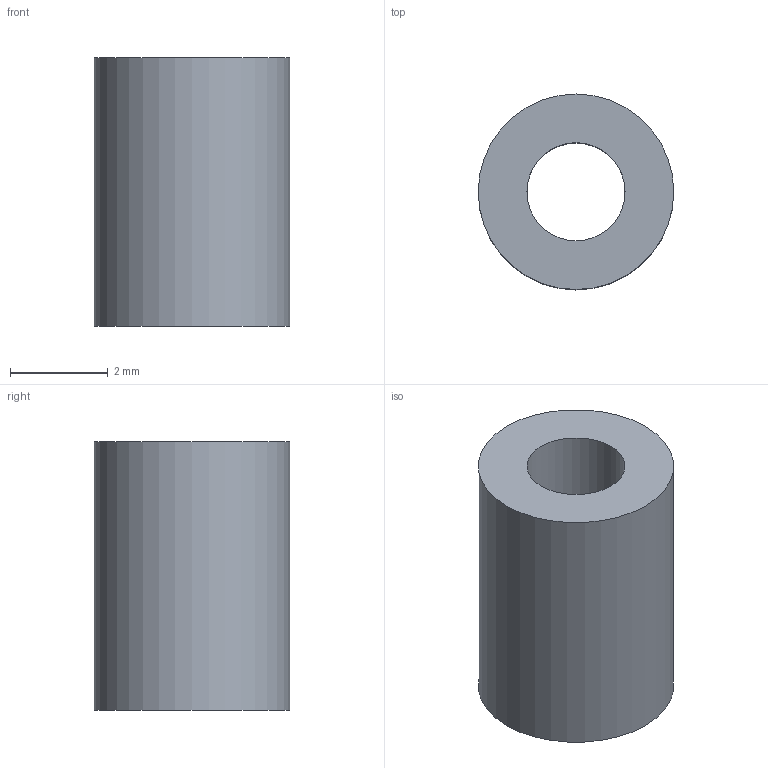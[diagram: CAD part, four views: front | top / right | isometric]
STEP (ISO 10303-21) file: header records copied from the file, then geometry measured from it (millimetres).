
FILE_DESCRIPTION(('Open CASCADE Model'),'2;1');
FILE_NAME('Open CASCADE Shape Model','2026-09-06T11:34:45',('Author'),( 'Open CASCADE'),'Open CASCADE STEP processor 7.7','Open CASCADE 7.7' ,'Unknown');
FILE_SCHEMA(('AUTOMOTIVE_DESIGN { 1 0 10303 214 1 1 1 1 }'));
Length unit declared in the file: millimetre
Products named in the file (1): Open CASCADE STEP translator 7.7 1
Bounding box: 4 x 4 x 5.5 mm (x, y, z)
Volume: 51.7 mm3; surface area: 122.6 mm2
Topology: 1 solids, 1 shells, 4 faces, 6 edges, 4 vertices
Faces by surface type: cylinder 2, plane 2
Full cylindrical faces by diameter (mm): 2.008 x1, 4 x1
Entity records: 192 total; most frequent: CARTESIAN_POINT 39, DIRECTION 30, ORIENTED_EDGE 12, PCURVE 12, DEFINITIONAL_REPRESENTATION 12, LINE 10, VECTOR 10, AXIS2_PLACEMENT_3D 9
